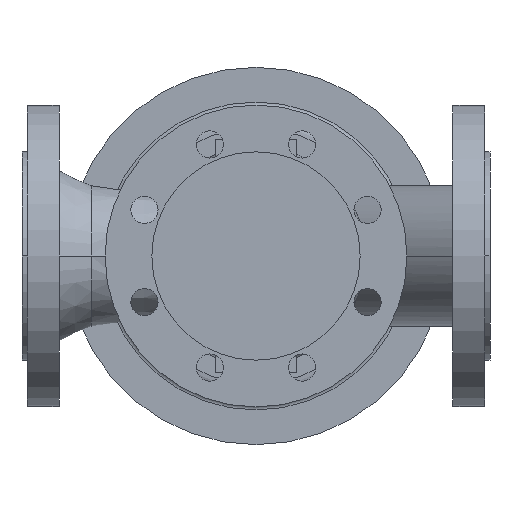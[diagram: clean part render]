
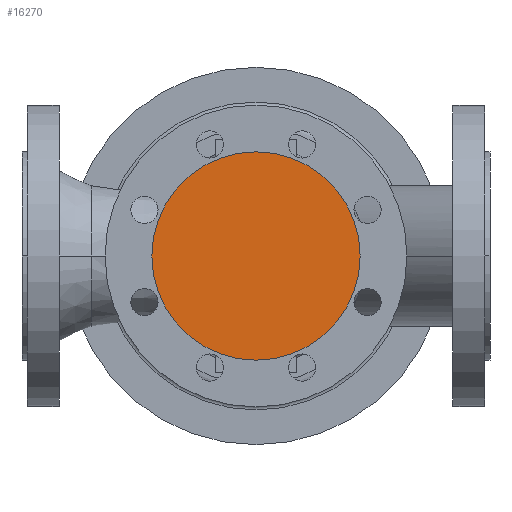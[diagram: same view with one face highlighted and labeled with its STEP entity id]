
A CAD part, front view. The second image highlights one B-rep face of the part: STEP entity #16270.
In plain terms, the highlighted planar face has unit normal (0, -1, 0).
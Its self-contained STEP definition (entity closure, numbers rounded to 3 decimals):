
#5620=CARTESIAN_POINT('',(86.,-130.,0.));
#5630=VERTEX_POINT('',#5620);
#5660=CARTESIAN_POINT('',(155.,-130.,0.));
#5670=DIRECTION('',(0.,1.,0.));
#5680=DIRECTION('',(1.,0.,0.));
#5690=AXIS2_PLACEMENT_3D('',#5660,#5670,#5680);
#5700=CIRCLE('',#5690,69.);
#5710=CARTESIAN_POINT('',(224.,-130.,0.));
#5720=VERTEX_POINT('',#5710);
#5730=EDGE_CURVE('',#5720,#5630,#5700,.T.);
#16170=CARTESIAN_POINT('',(189.5,-130.,0.));
#16180=DIRECTION('',(0.,-1.,0.));
#16190=DIRECTION('',(-1.,0.,0.));
#16200=AXIS2_PLACEMENT_3D('',#16170,#16180,#16190);
#16210=PLANE('',#16200);
#16220=ORIENTED_EDGE('',*,*,#5730,.F.);
#16230=EDGE_CURVE('',#5630,#5720,#5700,.T.);
#16240=ORIENTED_EDGE('',*,*,#16230,.F.);
#16250=EDGE_LOOP('',(#16240,#16220));
#16260=FACE_OUTER_BOUND('',#16250,.T.);
#16270=ADVANCED_FACE('',(#16260),#16210,.T.);
